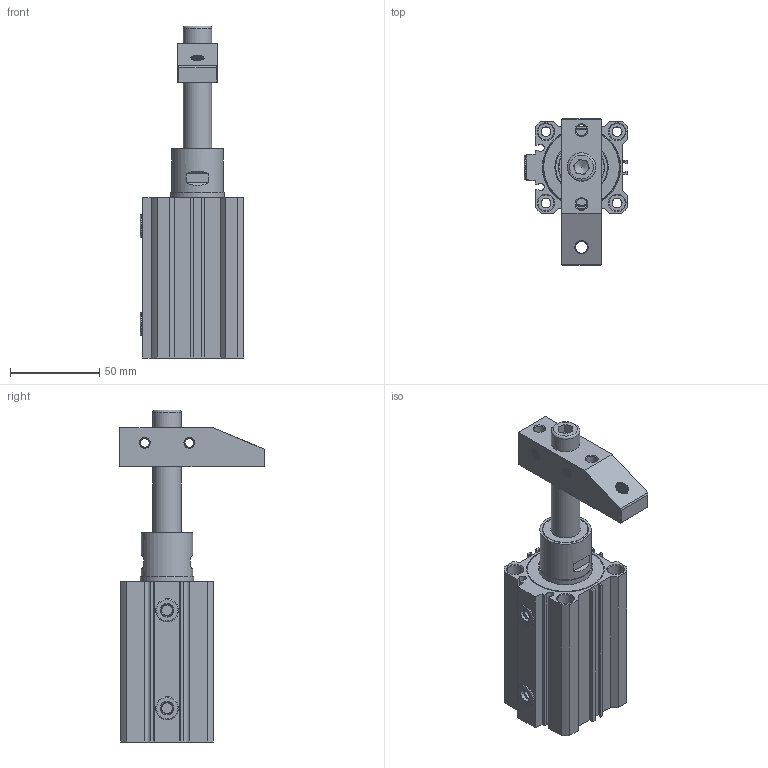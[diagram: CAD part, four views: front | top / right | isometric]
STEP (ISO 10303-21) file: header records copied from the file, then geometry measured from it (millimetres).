
FILE_DESCRIPTION(/* description */ ('STEP AP203'),/* implementation_level */ '2;1');
FILE_NAME(/* name */ 'E:\SERWER_ZAPAS\MODELE brakujace\PNEUMATIC\PB(STEP)\PBL4感应式转角缸三维图\PBL-40R_OTWARTY.stp',/* time_stamp */ '2019-02-01T16:22:14+01:00',/* author */ ('Admin'),/* organization */ ('Î¢ÈíÖÐ¹ú'),/* preprocessor_version */ 'ST-DEVELOPER v17.2',/* originating_system */ 'Autodesk Inventor 2019',/* authorisation */ '');
FILE_SCHEMA (('AUTOMOTIVE_DESIGN { 1 0 10303 214 3 1 1 }'));
Products named in the file (12): PBL-40R_OTWARTY; ±¾±¾°É; ºó¸Ç; Parallel pins Unhardening Steel GB_GB_CONNECTING_PIECE_PIN_PPUS 4X40; »îÈû11; 1-8¶ÂÍ·0023; Ñ¹±Û41254; Hexagon socket head cap screws GB_GB_FASTENER_SCREWS_HSHCS M10X30-S; Ç°¸Ç11; »îÈû¸Ë11421; µæ¿é; s¸Ë2256
Assembly tree (12 placements, depth 2):
  PBL-40R_OTWARTY
    ±¾±¾°É
    ºó¸Ç
    Parallel pins Unhardening Steel GB_GB_CONNECTING_PIECE_PIN_PPUS 4X40
    »îÈû11
    1-8¶ÂÍ·0023  x2
    Ñ¹±Û41254
    Hexagon socket head cap screws GB_GB_FASTENER_SCREWS_HSHCS M10X30-S
    Ç°¸Ç11
    »îÈû¸Ë11421
    µæ¿é
    s¸Ë2256
Bounding box: 58.2 x 82 x 186.5 mm (x, y, z)
Volume: 216440 mm3; surface area: 102111.6 mm2
Topology: 12 solids, 12 shells, 713 faces, 2039 edges, 1405 vertices
Faces by surface type: cylinder 255, plane 197, cone 167, torus 49, bspline 45
Full cylindrical faces by diameter (mm): 2 x3, 4 x6, 5 x52, 5.5 x4, 6 x2, 6.2 x2, 6.8 x16, 7 x2, 8.2 x20, 8.7 x2, 9 x8, 10 x30, 10.5 x1, 11.624 x1, 12 x4, 13 x2, 16 x4, 16.1 x3, 16.5 x1, 18 x10, 19 x1, 20.3 x1, 22 x2, 24 x2, 26 x2, 29 x1, 30 x1, 32 x1, 36 x1, 36.7 x1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
Entity records: 57889 total; most frequent: CARTESIAN_POINT 39015, ORIENTED_EDGE 4000, DIRECTION 3839, EDGE_CURVE 2000, AXIS2_PLACEMENT_3D 1567, VERTEX_POINT 1379, CIRCLE 876, EDGE_LOOP 793
